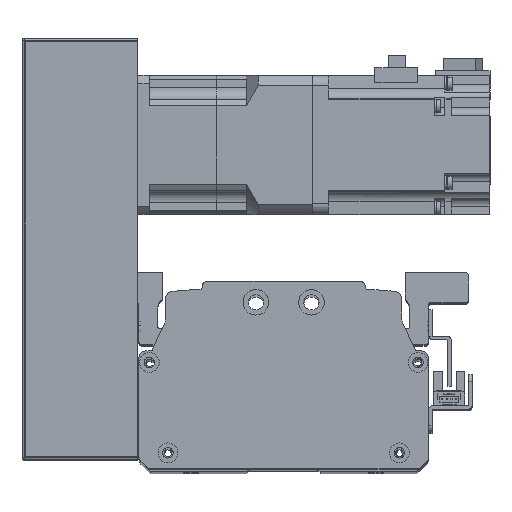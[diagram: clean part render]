
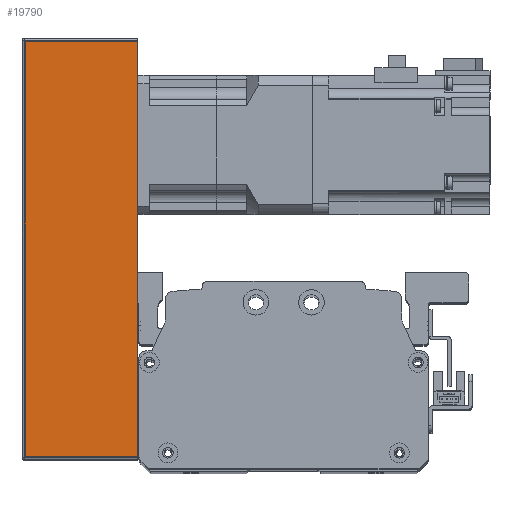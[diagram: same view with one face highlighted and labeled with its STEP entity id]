
A CAD part, top view. The second image highlights one B-rep face of the part: STEP entity #19790.
In plain terms, the highlighted planar face has unit normal (0, 0, 1) as drawn and (0, -1, 0) by its records, which use the part's own axes.
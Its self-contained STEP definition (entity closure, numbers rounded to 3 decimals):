
#604=PLANE('',#21738);
#1823=LINE('',#32640,#3447);
#1832=LINE('',#32679,#3456);
#1835=LINE('',#32689,#3459);
#1836=LINE('',#32691,#3460);
#3447=VECTOR('',#26382,10.);
#3456=VECTOR('',#26431,10.);
#3459=VECTOR('',#26448,10.);
#3460=VECTOR('',#26451,10.);
#5806=FACE_OUTER_BOUND('',#7242,.T.);
#7242=EDGE_LOOP('',(#17035,#17036,#17037,#17038));
#10105=VERTEX_POINT('',#32637);
#10106=VERTEX_POINT('',#32639);
#10115=VERTEX_POINT('',#32676);
#10116=VERTEX_POINT('',#32678);
#12545=EDGE_CURVE('',#10105,#10106,#1823,.T.);
#12565=EDGE_CURVE('',#10115,#10116,#1832,.T.);
#12571=EDGE_CURVE('',#10116,#10105,#1835,.T.);
#12572=EDGE_CURVE('',#10106,#10115,#1836,.T.);
#17035=ORIENTED_EDGE('',*,*,#12565,.F.);
#17036=ORIENTED_EDGE('',*,*,#12572,.F.);
#17037=ORIENTED_EDGE('',*,*,#12545,.F.);
#17038=ORIENTED_EDGE('',*,*,#12571,.F.);
#19790=ADVANCED_FACE('',(#5806),#604,.T.);
#21738=AXIS2_PLACEMENT_3D('',#32690,#26449,#26450);
#26382=DIRECTION('',(1.,0.,0.));
#26431=DIRECTION('',(-1.,0.,0.));
#26448=DIRECTION('',(0.,0.,1.));
#26449=DIRECTION('center_axis',(0.,-1.,0.));
#26450=DIRECTION('ref_axis',(1.,0.,0.));
#26451=DIRECTION('',(0.,0.,-1.));
#32637=CARTESIAN_POINT('',(-90.,-38.,25.));
#32639=CARTESIAN_POINT('',(90.,-38.,25.));
#32640=CARTESIAN_POINT('',(91.,-38.,25.));
#32676=CARTESIAN_POINT('',(90.,-38.,-24.));
#32678=CARTESIAN_POINT('',(-90.,-38.,-24.));
#32679=CARTESIAN_POINT('',(-45.5,-38.,-24.));
#32689=CARTESIAN_POINT('',(-90.,-38.,0.));
#32690=CARTESIAN_POINT('Origin',(-91.,-38.,0.));
#32691=CARTESIAN_POINT('',(90.,-38.,0.));
